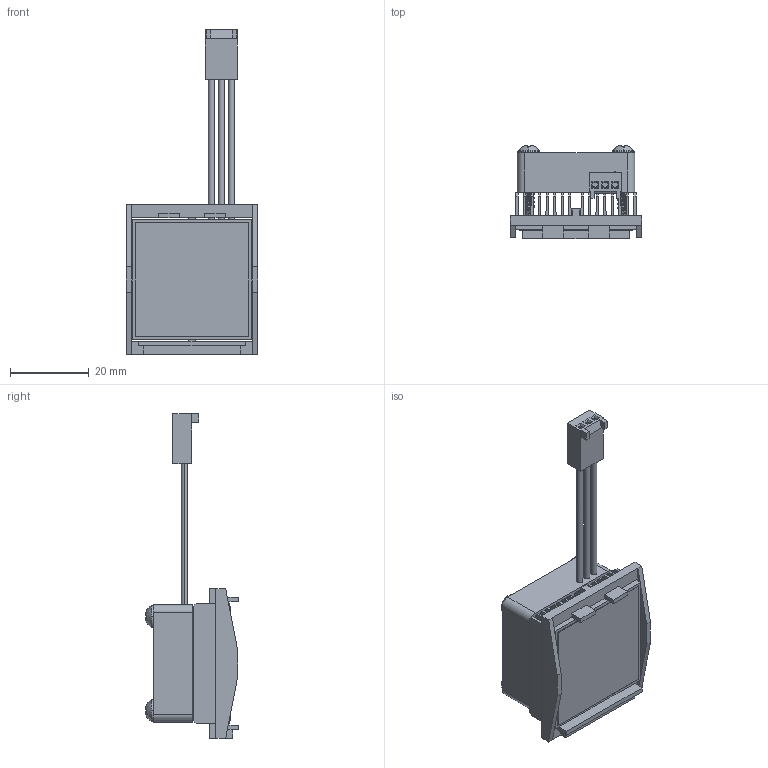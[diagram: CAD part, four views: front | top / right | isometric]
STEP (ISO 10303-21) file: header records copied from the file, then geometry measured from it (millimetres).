
FILE_DESCRIPTION (( 'STEP AP214' ), '1' );
FILE_NAME ('FI31-1.4+Y.STEP', '2023-03-07T19:11:27', ( '' ), ( '' ), 'SwSTEP 2.0', 'SolidWorks 2020', '' );
FILE_SCHEMA (( 'AUTOMOTIVE_DESIGN' ));
Length unit declared in the file: millimetre
Products named in the file (1): FI31-1.4+Y
Bounding box: 33.6 x 23.73 x 82.69 mm (x, y, z)
Volume: 10339.7 mm3; surface area: 20107.7 mm2
Topology: 8 solids, 8 shells, 832 faces, 2389 edges, 1580 vertices
Faces by surface type: plane 329, cylinder 305, bspline 154, cone 44
Entity records: 44120 total; most frequent: CARTESIAN_POINT 15848, ORIENTED_EDGE 4778, DIRECTION 3123, EDGE_CURVE 2389, VERTEX_POINT 1580, VECTOR 1233, LINE 1233, AXIS2_PLACEMENT_3D 945
